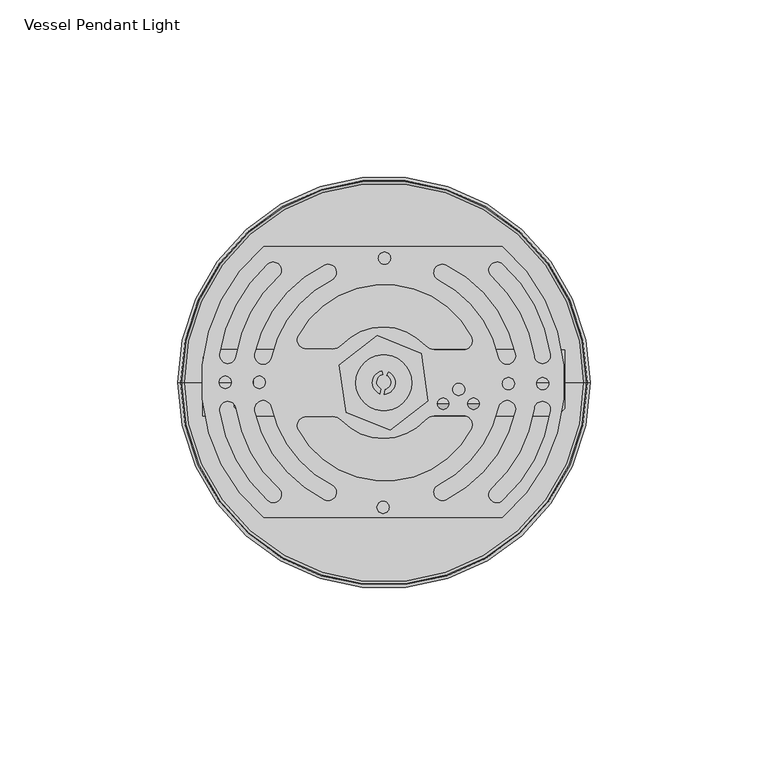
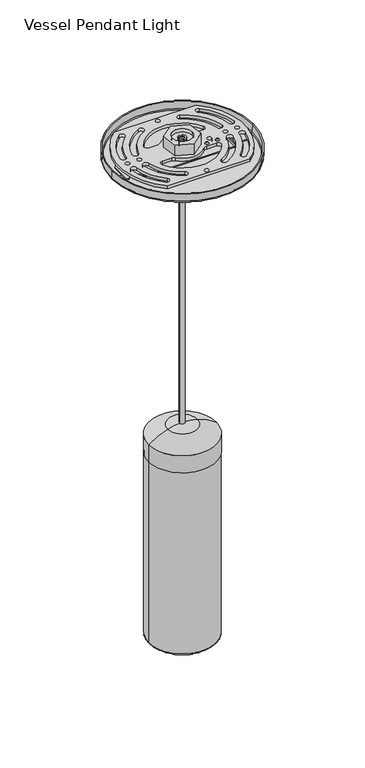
"""IFC4 building model written with IfcOpenShell, lengths in millimetres: light fixture geometry, Lighting-VSRA-Vessel-Pendant-Light-SM-3D-Humanscale : Vessel Pendant Light."""

from ifc_helpers import new_model, si_unit, point, frame, frame_2d, origin, place, context, project, spatial, polyline, circle_curve, ellipse_curve, trimmed, segment, composite_curve, outline, extrude, source, transform, mapped, element, save
from ifc_brep_helpers import plane_surface, cylinder_surface, revolved_surface, advanced_brep


def vessel_pendant_light_e44dd57b(model_context):
    return source(origin(), model_context, "Body", "SolidModel", [
        advanced_brep(
        [(-39.1099901, 11.1799568, 185.4849427), (-39.1099901, -7.5207835, 185.4849427), (-39.872494, -7.5207835, 185.4849427), (-42.4399795, -4.9250705, 185.4849427), (-42.4015408, 2.0594599, 185.4849427), (-47.2291246, 1.7713876, 185.4849427), (-47.2671441, -5.6767566, 185.4849427), (-49.0540663, -7.4210384, 185.4849427), (-51.2130284, -7.4092067, 185.4849427), (-51.1288114, 9.0891811, 185.4849427), (-49.0148398, 11.1799568, 185.4849427), (-38.5396426, 11.1799568, 184.9145951), (-38.5396426, -7.5207835, 184.9145951), (-38.0083741, 11.1799568, 183.357798), (-38.0083741, -7.5207835, 183.357798), (-36.9613236, 11.1799568, 182.9244974), (-36.9613236, -7.5207835, 182.9244974), (36.9613236, 11.1799568, 182.9244974), (36.9613236, -7.5207835, 182.9244974), (38.0083741, 11.1799568, 183.357798), (38.0083741, -7.5207835, 183.357798), (38.5396426, 11.1799568, 184.9145951), (38.5396426, -7.5207835, 184.9145951), (39.1099901, 11.1799568, 185.4849427), (39.1099901, -7.5207835, 185.4849427), (41.7117089, 8.5809356, 185.4849427), (41.6732259, 1.5883372, 185.4849427), (46.4969275, 1.5883372, 185.4849427), (46.5424994, 9.3075791, 185.4849427), (48.3307861, 11.0455507, 185.4849427), (50.4897482, 11.033719, 185.4849427), (50.4897482, -5.3405087, 185.4849427), (48.2852845, -7.5207835, 185.4849427), (38.9468398, 11.1799568, 186.4766109), (38.9468398, -7.5207835, 186.4766109), (48.2852845, -7.5207835, 186.4766109), (50.4897482, -5.3405087, 186.4766109), (50.4897482, 11.033719, 186.4766109), (48.3307861, 11.0455507, 186.4766109), (46.5424994, 9.3075791, 186.4766109), (46.4969275, 1.5883372, 186.4766109), (41.6732259, 1.5883372, 186.4766109), (41.7117089, 8.5809356, 186.4766109), (39.1409513, 11.1799568, 186.4766109), (37.7762092, 11.1799568, 185.883204), (37.7762092, -7.5207835, 185.883204), (37.5178392, 11.1799568, 184.7713957), (37.5178392, -7.5207835, 184.7713957), (36.882608, 11.1799568, 183.8960423), (36.882608, -7.5207835, 183.8960423), (-36.882608, 11.1799568, 183.8960423), (-36.882608, -7.5207835, 183.8960423), (-37.5178392, 11.1799568, 184.7713957), (-37.5178392, -7.5207835, 184.7713957), (-37.7762092, 11.1799568, 185.883204), (-37.7762092, -7.5207835, 185.883204), (-38.9468398, 11.1799568, 186.4766109), (-38.9468398, -7.5207835, 186.4766109), (-49.0148398, 11.1799568, 186.4766109), (-51.1288114, 9.0891811, 186.4766109), (-51.2130284, -7.4092067, 186.4766109), (-49.0540663, -7.4210384, 186.4766109), (-47.2671441, -5.6767566, 186.4766109), (-47.2291246, 1.7713876, 186.4766109), (-42.4015408, 2.0594599, 186.4766109), (-42.4399795, -4.9250705, 186.4766109), (-39.872494, -7.5207835, 186.4766109)],
        [
            (0, 1),
            (1, 2),
            (2, 3),
            (3, 4),
            (4, 5, circle_curve(frame((-44.8059997, 1.7590186, 185.4849427), z_axis=(0.0, 0.0, 1.0), x_axis=(1.0, 0.0, 0.0)), 2.4231565)),
            (5, 6),
            (6, 7),
            (7, 8),
            (8, 9),
            (9, 10),
            (10, 0),
            (0, 11, circle_curve(frame((-39.1099901, 11.1799568, 184.9145951), z_axis=(0.0, 1.0, 0.0), x_axis=(1.0, 0.0, 0.0)), 0.5703476)),
            (11, 12),
            (12, 1, circle_curve(frame((-39.1099901, -7.5207835, 184.9145951), z_axis=(0.0, -1.0, 0.0), x_axis=(1.0, 0.0, 0.0)), 0.5703476)),
            (11, 13, circle_curve(frame((-35.9930362, 11.1799568, 184.9145951), z_axis=(0.0, -1.0, 0.0), x_axis=(1.0, 0.0, 0.0)), 2.5466064)),
            (13, 14),
            (14, 12, circle_curve(frame((-35.9930362, -7.5207835, 184.9145951), z_axis=(0.0, 1.0, 0.0), x_axis=(1.0, 0.0, 0.0)), 2.5466064)),
            (13, 15, circle_curve(frame((-37.10707, 11.1799568, 184.0540324), z_axis=(0.0, -1.0, 0.0), x_axis=(1.0, 0.0, 0.0)), 1.1388993)),
            (15, 16),
            (16, 14, circle_curve(frame((-37.10707, -7.5207835, 184.0540324), z_axis=(0.0, 1.0, 0.0), x_axis=(1.0, 0.0, 0.0)), 1.1388993)),
            (15, 17),
            (17, 18),
            (18, 16),
            (17, 19, circle_curve(frame((37.10707, 11.1799568, 184.0540324), z_axis=(0.0, -1.0, 0.0), x_axis=(1.0, 0.0, 0.0)), 1.1388993)),
            (19, 20),
            (20, 18, circle_curve(frame((37.10707, -7.5207835, 184.0540324), z_axis=(0.0, 1.0, 0.0), x_axis=(1.0, 0.0, 0.0)), 1.1388993)),
            (19, 21, circle_curve(frame((35.9930362, 11.1799568, 184.9145951), z_axis=(0.0, -1.0, 0.0), x_axis=(1.0, 0.0, 0.0)), 2.5466064)),
            (21, 22),
            (22, 20, circle_curve(frame((35.9930362, -7.5207835, 184.9145951), z_axis=(0.0, 1.0, 0.0), x_axis=(1.0, 0.0, 0.0)), 2.5466064)),
            (21, 23, circle_curve(frame((39.1099901, 11.1799568, 184.9145951), z_axis=(0.0, 1.0, 0.0), x_axis=(1.0, 0.0, 0.0)), 0.5703476)),
            (23, 24),
            (24, 22, circle_curve(frame((39.1099901, -7.5207835, 184.9145951), z_axis=(0.0, -1.0, 0.0), x_axis=(1.0, 0.0, 0.0)), 0.5703476)),
            (23, 25),
            (25, 26),
            (26, 27, circle_curve(frame((44.0850767, 1.5883372, 185.4849427), z_axis=(0.0, 0.0, 1.0), x_axis=(1.0, 0.0, 0.0)), 2.4118508)),
            (27, 28),
            (28, 29),
            (29, 30),
            (30, 31),
            (31, 32),
            (32, 24),
            (33, 34),
            (34, 35),
            (35, 36),
            (36, 37),
            (37, 38),
            (38, 39),
            (39, 40),
            (40, 41, circle_curve(frame((44.0850767, 1.5883372, 186.4766109), z_axis=(0.0, 0.0, -1.0), x_axis=(1.0, 0.0, 0.0)), 2.4118508)),
            (41, 42),
            (42, 43),
            (43, 33),
            (33, 44, circle_curve(frame((38.9468398, 11.1799568, 185.0252394), z_axis=(0.0, -1.0, 0.0), x_axis=(1.0, 0.0, 0.0)), 1.4513716)),
            (44, 45),
            (45, 34, circle_curve(frame((38.9468398, -7.5207835, 185.0252394), z_axis=(0.0, 1.0, 0.0), x_axis=(1.0, 0.0, 0.0)), 1.4513716)),
            (44, 46, circle_curve(frame((38.9468398, 11.1799568, 185.0252394), z_axis=(0.0, -1.0, 0.0), x_axis=(1.0, 0.0, 0.0)), 1.4513716)),
            (46, 47),
            (47, 45, circle_curve(frame((38.9468398, -7.5207835, 185.0252394), z_axis=(0.0, 1.0, 0.0), x_axis=(1.0, 0.0, 0.0)), 1.4513716)),
            (46, 48, circle_curve(frame((36.7781635, 11.1799568, 184.6400019), z_axis=(0.0, 1.0, 0.0), x_axis=(1.0, 0.0, 0.0)), 0.7512552)),
            (48, 49),
            (49, 47, circle_curve(frame((36.7781635, -7.5207835, 184.6400019), z_axis=(0.0, -1.0, 0.0), x_axis=(1.0, 0.0, 0.0)), 0.7512552)),
            (48, 50),
            (50, 51),
            (51, 49),
            (50, 52, circle_curve(frame((-36.7781635, 11.1799568, 184.6400019), z_axis=(0.0, 1.0, 0.0), x_axis=(1.0, 0.0, 0.0)), 0.7512552)),
            (52, 53),
            (53, 51, circle_curve(frame((-36.7781635, -7.5207835, 184.6400019), z_axis=(0.0, -1.0, 0.0), x_axis=(1.0, 0.0, 0.0)), 0.7512552)),
            (52, 54, circle_curve(frame((-38.9468398, 11.1799568, 185.0252394), z_axis=(0.0, -1.0, 0.0), x_axis=(1.0, 0.0, 0.0)), 1.4513716)),
            (54, 55),
            (55, 53, circle_curve(frame((-38.9468398, -7.5207835, 185.0252394), z_axis=(0.0, 1.0, 0.0), x_axis=(1.0, 0.0, 0.0)), 1.4513716)),
            (54, 56, circle_curve(frame((-38.9468398, 11.1799568, 185.0252394), z_axis=(0.0, -1.0, 0.0), x_axis=(1.0, 0.0, 0.0)), 1.4513716)),
            (56, 57),
            (57, 55, circle_curve(frame((-38.9468398, -7.5207835, 185.0252394), z_axis=(0.0, 1.0, 0.0), x_axis=(1.0, 0.0, 0.0)), 1.4513716)),
            (56, 58),
            (58, 59),
            (59, 60),
            (60, 61),
            (61, 62),
            (62, 63),
            (63, 64, circle_curve(frame((-44.8059997, 1.7590186, 186.4766109), z_axis=(0.0, 0.0, -1.0), x_axis=(1.0, 0.0, 0.0)), 2.4231565)),
            (64, 65),
            (65, 66),
            (66, 57),
            (23, 43),
            (42, 25),
            (41, 26),
            (40, 27),
            (39, 28),
            (38, 29),
            (37, 30),
            (36, 31),
            (35, 32),
            (66, 2),
            (65, 3),
            (64, 4),
            (63, 5),
            (62, 6),
            (61, 7),
            (60, 8),
            (59, 9),
            (58, 10),
        ],
        [
            plane_surface(frame((-52.318084, -9.254534, 185.4849427), z_axis=(0.0, 0.0, -1.0), x_axis=(0.0, 1.0, 0.0))),
            revolved_surface(polyline([(-38.5396425, 11.1799568, 184.9145951), (-38.5396425, -7.5207835, 184.9145951)]), (-39.1099901, 13.0320851, 184.9145951), (0.0, 1.0, 0.0)),
            cylinder_surface(frame((-35.9930362, 13.0320851, 184.9145951), z_axis=(0.0, -1.0, 0.0), x_axis=(1.0, 0.0, 0.0)), 2.5466064),
            cylinder_surface(frame((-37.10707, 13.0320851, 184.0540324), z_axis=(0.0, -1.0, 0.0), x_axis=(1.0, 0.0, 0.0)), 1.1388993),
            plane_surface(frame((-36.9613236, -9.254534, 182.9244974), z_axis=(0.0, 0.0, -1.0), x_axis=(0.0, 1.0, 0.0))),
            cylinder_surface(frame((37.10707, 13.0320851, 184.0540324), z_axis=(0.0, -1.0, 0.0), x_axis=(1.0, 0.0, 0.0)), 1.1388993),
            cylinder_surface(frame((35.9930362, 13.0320851, 184.9145951), z_axis=(0.0, -1.0, 0.0), x_axis=(1.0, 0.0, 0.0)), 2.5466064),
            revolved_surface(polyline([(39.680337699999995, 11.1799568, 184.9145951), (39.680337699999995, -7.5207835, 184.9145951)]), (39.1099901, 13.0320851, 184.9145951), (0.0, 1.0, 0.0)),
            plane_surface(frame((39.1099901, -9.254534, 185.4849427), z_axis=(0.0, 0.0, -1.0), x_axis=(0.0, 1.0, 0.0))),
            plane_surface(frame((52.4290261, -9.254534, 186.4766109), z_axis=(0.0, 0.0, 1.0), x_axis=(0.0, 1.0, 0.0))),
            cylinder_surface(frame((38.9468398, 13.0320851, 185.0252394), z_axis=(0.0, -1.0, 0.0), x_axis=(1.0, 0.0, 0.0)), 1.4513716),
            revolved_surface(polyline([(37.5294187, 11.1799568, 184.6400019), (37.5294187, -7.5207835, 184.6400019)]), (36.7781635, 13.0320851, 184.6400019), (0.0, 1.0, 0.0)),
            plane_surface(frame((36.882608, -9.254534, 183.8960423), z_axis=(0.0, 0.0, 1.0), x_axis=(0.0, 1.0, 0.0))),
            revolved_surface(polyline([(-36.026908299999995, 11.1799568, 184.6400019), (-36.026908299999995, -7.5207835, 184.6400019)]), (-36.7781635, 13.0320851, 184.6400019), (0.0, 1.0, 0.0)),
            cylinder_surface(frame((-38.9468398, 13.0320851, 185.0252394), z_axis=(0.0, -1.0, 0.0), x_axis=(1.0, 0.0, 0.0)), 1.4513716),
            plane_surface(frame((-38.9468398, -9.254534, 186.4766109), z_axis=(0.0, 0.0, 1.0), x_axis=(0.0, 1.0, 0.0))),
            plane_surface(frame((39.1409513, 11.1799568, 190.1280055), z_axis=(0.71096195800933, 0.7032304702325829, 0.0), x_axis=(0.0, 0.0, -1.0))),
            plane_surface(frame((41.7117089, 8.5809356, 190.1280055), z_axis=(0.9999848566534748, -0.005503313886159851, 0.0), x_axis=(0.0, 0.0, -1.0))),
            revolved_surface(polyline([(46.4969275, 1.5883372, 186.4766109), (46.4969275, 1.5883372, 185.4849427)]), (44.0850767, 1.5883372, 178.8666859), (0.0, 0.0, 1.0)),
            plane_surface(frame((46.4969275, 1.5883372, 190.1280055), z_axis=(-0.999982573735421, 0.005903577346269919, 0.0), x_axis=(0.0, 0.0, -1.0))),
            plane_surface(frame((46.5424994, 9.3075791, 190.1280055), z_axis=(-0.6969463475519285, 0.7171232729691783, 0.0), x_axis=(0.0, 0.0, -1.0))),
            plane_surface(frame((48.3307861, 11.0455507, 190.1280055), z_axis=(0.005480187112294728, 0.999984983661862, 0.0), x_axis=(0.0, 0.0, -1.0))),
            plane_surface(frame((50.4897482, 11.033719, 190.1280055), z_axis=(1.0, 0.0, 0.0), x_axis=(0.0, 0.0, -1.0))),
            plane_surface(frame((50.4897482, -5.3405087, 190.1280055), z_axis=(0.7031952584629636, -0.7109967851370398, 0.0), x_axis=(0.0, 0.0, -1.0))),
            plane_surface(frame((48.2852845, -7.5207835, 190.1280055), z_axis=(0.0, -1.0, 0.0), x_axis=(0.0, 0.0, -1.0))),
            plane_surface(frame((-39.872494, -7.5207835, 190.1280055), z_axis=(-0.7109619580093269, -0.7032304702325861, 0.0), x_axis=(0.0, 0.0, -1.0))),
            plane_surface(frame((-42.4399795, -4.9250705, 190.1280055), z_axis=(-0.9999848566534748, 0.005503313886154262, 0.0), x_axis=(0.0, 0.0, -1.0))),
            revolved_surface(polyline([(-42.3828432, 1.7590186, 186.4766109), (-42.3828432, 1.7590186, 185.4849427)]), (-44.8059997, 1.7590186, 178.8666859), (0.0, 0.0, 1.0)),
            plane_surface(frame((-47.2291246, 1.7713876, 190.1280055), z_axis=(0.9999869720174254, -0.0051044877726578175, 0.0), x_axis=(0.0, 0.0, -1.0))),
            plane_surface(frame((-47.2671441, -5.6767566, 190.1280055), z_axis=(0.6985173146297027, -0.7155931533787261, 0.0), x_axis=(0.0, 0.0, -1.0))),
            plane_surface(frame((-49.0540663, -7.4210384, 190.1280055), z_axis=(-0.005480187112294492, -0.999984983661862, 0.0), x_axis=(0.0, 0.0, -1.0))),
            plane_surface(frame((-51.2130284, -7.4092067, 190.1280055), z_axis=(-0.9999869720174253, 0.005104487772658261, 0.0), x_axis=(0.0, 0.0, -1.0))),
            plane_surface(frame((-51.1288114, 9.0891811, 190.1280055), z_axis=(-0.7031952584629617, 0.7109967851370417, 0.0), x_axis=(0.0, 0.0, -1.0))),
            plane_surface(frame((-49.0148398, 11.1799568, 190.1280055), z_axis=(0.0, 1.0, 0.0), x_axis=(0.0, 0.0, -1.0))),
        ],
        [
            (0, [[1, 2, 3, 4, 5, 6, 7, 8, 9, 10, 11]]),
            (1, [[-1, 12, 13, 14]]),
            (2, [[-13, 15, 16, 17]]),
            (3, [[-16, 18, 19, 20]]),
            (4, [[-19, 21, 22, 23]]),
            (5, [[-22, 24, 25, 26]]),
            (6, [[-25, 27, 28, 29]]),
            (7, [[-28, 30, 31, 32]]),
            (8, [[-31, 33, 34, 35, 36, 37, 38, 39, 40, 41]]),
            (9, [[42, 43, 44, 45, 46, 47, 48, 49, 50, 51, 52]]),
            (10, [[-42, 53, 54, 55]]),
            (10, [[-54, 56, 57, 58]]),
            (11, [[-57, 59, 60, 61]]),
            (12, [[-60, 62, 63, 64]]),
            (13, [[-63, 65, 66, 67]]),
            (14, [[-66, 68, 69, 70]]),
            (14, [[-69, 71, 72, 73]]),
            (15, [[-72, 74, 75, 76, 77, 78, 79, 80, 81, 82, 83]]),
            (16, [[84, -51, 85, -33]]),
            (17, [[-85, -50, 86, -34]]),
            (18, [[-86, -49, 87, -35]]),
            (19, [[-87, -48, 88, -36]]),
            (20, [[-88, -47, 89, -37]]),
            (21, [[-89, -46, 90, -38]]),
            (22, [[-90, -45, 91, -39]]),
            (23, [[-91, -44, 92, -40]]),
            (24, [[-92, -43, -55, -58, -61, -64, -67, -70, -73, -83, 93, -2, -14, -17, -20, -23, -26, -29, -32, -41]]),
            (25, [[-93, -82, 94, -3]]),
            (26, [[-94, -81, 95, -4]]),
            (27, [[-95, -80, 96, -5]]),
            (28, [[-96, -79, 97, -6]]),
            (29, [[-97, -78, 98, -7]]),
            (30, [[-98, -77, 99, -8]]),
            (31, [[-99, -76, 100, -9]]),
            (32, [[-100, -75, 101, -10]]),
            (33, [[-84, -30, -27, -24, -21, -18, -15, -12, -11, -101, -74, -71, -68, -65, -62, -59, -56, -53, -52]]),
        ],
    ),
        advanced_brep(
        [(-27.6810642, 2.4124137, -71.3819314), (27.6810642, 2.4124137, -71.3819314), (0.0, 2.4124137, -71.3819314), (-27.6810642, 2.4124137, -56.8466331), (27.6810642, 2.4124137, -56.8466331), (-12.3411442, 2.4124137, -48.8160938), (12.3411442, 2.4124137, -48.8160938), (0.0, 2.4124137, -47.0812705)],
        [
            (0, 1, circle_curve(frame((0.0, 2.4124137, -71.3819314), z_axis=(0.0, 0.0, -1.0), x_axis=(1.0, 0.0, 0.0)), 27.6810642)),
            (1, 2),
            (2, 0),
            (1, 0, circle_curve(frame((0.0, 2.4124137, -71.3819314), z_axis=(0.0, 0.0, -1.0), x_axis=(1.0, 0.0, 0.0)), 27.6810642)),
            (3, 4, circle_curve(frame((0.0, 2.4124137, -56.8466331), z_axis=(0.0, 0.0, -1.0), x_axis=(1.0, 0.0, 0.0)), 27.6810642)),
            (4, 1),
            (0, 3),
            (4, 3, circle_curve(frame((0.0, 2.4124137, -56.8466331), z_axis=(0.0, 0.0, -1.0), x_axis=(1.0, 0.0, 0.0)), 27.6810642)),
            (5, 6, circle_curve(frame((0.0, 2.4124137, -48.8160938), z_axis=(0.0, 0.0, -1.0), x_axis=(1.0, 0.0, 0.0)), 12.3411442)),
            (6, 4, circle_curve(frame((0.1973384, 2.4124137, -90.6795789), z_axis=(0.0, 1.0, 0.0), x_axis=(1.0, 0.0, 0.0)), 43.5892579)),
            (3, 5, circle_curve(frame((-0.1973384, 2.4124137, -90.6795789), z_axis=(0.0, 1.0, 0.0), x_axis=(-1.0, 0.0, 0.0)), 43.5892579)),
            (6, 5, circle_curve(frame((0.0, 2.4124137, -48.8160938), z_axis=(0.0, 0.0, -1.0), x_axis=(1.0, 0.0, 0.0)), 12.3411442)),
            (7, 6, circle_curve(frame((0.1322486, 2.4124137, -90.9039635), z_axis=(0.0, 1.0, 0.0), x_axis=(1.0, 0.0, 0.0)), 43.8228926)),
            (5, 7, circle_curve(frame((-0.1322486, 2.4124137, -90.9039635), z_axis=(0.0, 1.0, 0.0), x_axis=(-1.0, 0.0, 0.0)), 43.8228926)),
        ],
        [
            plane_surface(frame((0.0, 2.4124137, -71.3819314), z_axis=(0.0, 0.0, -1.0), x_axis=(1.0, 0.0, 0.0))),
            cylinder_surface(frame((0.0, 2.4124137, -47.0812705), z_axis=(0.0, 0.0, 1.0), x_axis=(1.0, 0.0, 0.0)), 27.6810642),
            revolved_surface(trimmed(ellipse_curve(frame((0.1973384, 2.4124137, -90.6795789), z_axis=(0.0, -1.0, 0.0), x_axis=(1.0, 0.0, 0.0)), 43.5892579, 43.5892579), [point((27.6810642, 2.4124137, -56.8466331))], [point((12.3411442, 2.4124137, -48.8160938))], True, "CARTESIAN"), (0.0, 2.4124137, -47.0812705), (0.0, 0.0, 1.0)),
            revolved_surface(trimmed(ellipse_curve(frame((0.1322486, 2.4124137, -90.9039635), z_axis=(0.0, -1.0, 0.0), x_axis=(1.0, 0.0, 0.0)), 43.8228926, 43.8228926), [point((12.3411442, 2.4124137, -48.8160938))], [point((0.0, 2.4124137, -47.0812705))], True, "CARTESIAN"), (0.0, 2.4124137, -47.0812705), (0.0, 0.0, 1.0)),
        ],
        [
            (0, [[1, 2, 3]]),
            (0, [[4, -3, -2]]),
            (1, [[5, 6, -1, 7]]),
            (1, [[8, -7, -4, -6]]),
            (2, [[9, 10, -5, 11]]),
            (2, [[12, -11, -8, -10]]),
            (3, [[13, -9, 14]]),
            (3, [[-14, -12, -13]]),
        ],
    ),
        advanced_brep(
        [(-26.3869417, 2.4124137, -228.5438114), (26.3869417, 2.4124137, -228.5438114), (0.0, 2.4124137, -223.7263236), (-27.4330173, 2.4124137, -227.8329425), (27.4330173, 2.4124137, -227.8329425), (-27.4330173, 2.4124137, -70.3755842), (27.4330173, 2.4124137, -70.3755842), (0.0, 2.4124137, -70.7562133)],
        [
            (0, 1, circle_curve(frame((0.0, 2.4124137, -228.5438114), z_axis=(0.0, 0.0, -1.0), x_axis=(1.0, 0.0, 0.0)), 26.3869417)),
            (1, 2, circle_curve(frame((1.0912529, 2.4124137, -292.4228367), z_axis=(0.0, -1.0, 0.0), x_axis=(1.0, 0.0, 0.0)), 68.7051799)),
            (2, 0, circle_curve(frame((-1.0912529, 2.4124137, -292.4228367), z_axis=(0.0, -1.0, 0.0), x_axis=(-1.0, 0.0, 0.0)), 68.7051799)),
            (1, 0, circle_curve(frame((0.0, 2.4124137, -228.5438114), z_axis=(0.0, 0.0, -1.0), x_axis=(1.0, 0.0, 0.0)), 26.3869417)),
            (3, 4, circle_curve(frame((0.0, 2.4124137, -227.8329425), z_axis=(0.0, 0.0, -1.0), x_axis=(1.0, 0.0, 0.0)), 27.4330173)),
            (4, 1, circle_curve(frame((26.6684412, 2.4124137, -227.8329425), z_axis=(0.0, 1.0, 0.0), x_axis=(1.0, 0.0, 0.0)), 0.7645761)),
            (0, 3, circle_curve(frame((-26.6684412, 2.4124137, -227.8329425), z_axis=(0.0, 1.0, 0.0), x_axis=(-1.0, 0.0, 0.0)), 0.7645761)),
            (4, 3, circle_curve(frame((0.0, 2.4124137, -227.8329425), z_axis=(0.0, 0.0, -1.0), x_axis=(1.0, 0.0, 0.0)), 27.4330173)),
            (5, 6, circle_curve(frame((0.0, 2.4124137, -70.3755842), z_axis=(0.0, 0.0, -1.0), x_axis=(1.0, 0.0, 0.0)), 27.4330173)),
            (6, 4),
            (3, 5),
            (6, 5, circle_curve(frame((0.0, 2.4124137, -70.3755842), z_axis=(0.0, 0.0, -1.0), x_axis=(1.0, 0.0, 0.0)), 27.4330173)),
            (7, 6, circle_curve(frame((9.1295634, 2.4124137, 260.0281716), z_axis=(0.0, -1.0, 0.0), x_axis=(1.0, 0.0, 0.0)), 330.9103478)),
            (5, 7, circle_curve(frame((-9.1295634, 2.4124137, 260.0281716), z_axis=(0.0, -1.0, 0.0), x_axis=(-1.0, 0.0, 0.0)), 330.9103478)),
        ],
        [
            revolved_surface(trimmed(ellipse_curve(frame((1.0912529, 2.4124137, -292.4228367), z_axis=(0.0, 1.0, 0.0), x_axis=(1.0, 0.0, 0.0)), 68.7051799, 68.7051799), [point((0.0, 2.4124137, -223.7263236))], [point((26.3869417, 2.4124137, -228.5438114))], True, "CARTESIAN"), (0.0, 2.4124137, -167.0901713), (0.0, 0.0, 1.0)),
            revolved_surface(trimmed(ellipse_curve(frame((26.6684412, 2.4124137, -227.8329425), z_axis=(0.0, -1.0, 0.0), x_axis=(1.0, 0.0, 0.0)), 0.7645761, 0.7645761), [point((26.3869417, 2.4124137, -228.5438114))], [point((27.4330173, 2.4124137, -227.8329425))], True, "CARTESIAN"), (0.0, 2.4124137, -167.0901713), (0.0, 0.0, 1.0)),
            cylinder_surface(frame((0.0, 2.4124137, -167.0901713), z_axis=(0.0, 0.0, 1.0), x_axis=(1.0, 0.0, 0.0)), 27.4330173),
            revolved_surface(trimmed(ellipse_curve(frame((9.1295634, 2.4124137, 260.0281716), z_axis=(0.0, 1.0, 0.0), x_axis=(1.0, 0.0, 0.0)), 330.9103478, 330.9103478), [point((27.4330173, 2.4124137, -70.3755842))], [point((0.0, 2.4124137, -70.7562133))], True, "CARTESIAN"), (0.0, 2.4124137, -167.0901713), (0.0, 0.0, 1.0)),
        ],
        [
            (0, [[1, 2, 3]]),
            (0, [[4, -3, -2]]),
            (1, [[5, 6, -1, 7]]),
            (1, [[8, -7, -4, -6]]),
            (2, [[9, 10, -5, 11]]),
            (2, [[12, -11, -8, -10]]),
            (3, [[13, -9, 14]]),
            (3, [[-14, -12, -13]]),
        ],
    ),
        advanced_brep(
        [(14.708731, -4.0063304, 191.4926821), (17.9028968, -4.0063304, 191.4926821), (16.3058139, -4.0063304, 191.4926821), (16.3058139, -4.0063304, 192.5349099)],
        [
            (0, 1, circle_curve(frame((16.3058139, -4.0063304, 191.4926821), z_axis=(0.0, 0.0, -1.0), x_axis=(1.0, 0.0, 0.0)), 1.5970829)),
            (1, 2),
            (2, 0),
            (1, 0, circle_curve(frame((16.3058139, -4.0063304, 191.4926821), z_axis=(0.0, 0.0, -1.0), x_axis=(1.0, 0.0, 0.0)), 1.5970829)),
            (3, 1, circle_curve(frame((16.2134187, -4.0063304, 190.6485477), z_axis=(0.0, 1.0, 0.0), x_axis=(1.0, 0.0, 0.0)), 1.8886236)),
            (0, 3, circle_curve(frame((16.3982091, -4.0063304, 190.6485477), z_axis=(0.0, 1.0, 0.0), x_axis=(-1.0, 0.0, 0.0)), 1.8886236)),
        ],
        [
            plane_surface(frame((16.3058139, -4.0063304, 191.4926821), z_axis=(0.0, 0.0, -1.0), x_axis=(1.0, 0.0, 0.0))),
            revolved_surface(trimmed(ellipse_curve(frame((16.2134187, -4.0063304, 190.6485477), z_axis=(0.0, -1.0, 0.0), x_axis=(1.0, 0.0, 0.0)), 1.8886236, 1.8886236), [point((17.9028968, -4.0063304, 191.4926821))], [point((16.3058139, -4.0063304, 192.5349099))], True, "CARTESIAN"), (16.3058139, -4.0063304, 192.5349099), (0.0, 0.0, 1.0)),
        ],
        [
            (0, [[1, 2, 3]]),
            (0, [[4, -3, -2]]),
            (1, [[5, -1, 6]]),
            (1, [[-6, -4, -5]]),
        ],
    ),
        advanced_brep(
        [(23.2446595, -4.0063304, 191.4926821), (26.4388253, -4.0063304, 191.4926821), (24.8417424, -4.0063304, 191.4926821), (24.8417424, -4.0063304, 192.5349099)],
        [
            (0, 1, circle_curve(frame((24.8417424, -4.0063304, 191.4926821), z_axis=(0.0, 0.0, -1.0), x_axis=(1.0, 0.0, 0.0)), 1.5970829)),
            (1, 2),
            (2, 0),
            (1, 0, circle_curve(frame((24.8417424, -4.0063304, 191.4926821), z_axis=(0.0, 0.0, -1.0), x_axis=(1.0, 0.0, 0.0)), 1.5970829)),
            (3, 1, circle_curve(frame((24.7493472, -4.0063304, 190.6485477), z_axis=(0.0, 1.0, 0.0), x_axis=(1.0, 0.0, 0.0)), 1.8886236)),
            (0, 3, circle_curve(frame((24.9341376, -4.0063304, 190.6485477), z_axis=(0.0, 1.0, 0.0), x_axis=(-1.0, 0.0, 0.0)), 1.8886236)),
        ],
        [
            plane_surface(frame((24.8417424, -4.0063304, 191.4926821), z_axis=(0.0, 0.0, -1.0), x_axis=(1.0, 0.0, 0.0))),
            revolved_surface(trimmed(ellipse_curve(frame((24.7493472, -4.0063304, 190.6485477), z_axis=(0.0, -1.0, 0.0), x_axis=(1.0, 0.0, 0.0)), 1.8886236, 1.8886236), [point((26.4388253, -4.0063304, 191.4926821))], [point((24.8417424, -4.0063304, 192.5349099))], True, "CARTESIAN"), (24.8417424, -4.0063304, 192.5349099), (0.0, 0.0, 1.0)),
        ],
        [
            (0, [[1, 2, 3]]),
            (0, [[4, -3, -2]]),
            (1, [[5, -1, 6]]),
            (1, [[-6, -4, -5]]),
        ],
    ),
        extrude(outline(composite_curve([segment(polyline([(-0.3001392, -1.3697992), (0.0, 0.0)]), True, "CONTINUOUS"), segment(trimmed(circle_curve(frame_2d((-0.4381217, 2.0674375)), 2.1133501), [point((0.0, 0.0))], [point((0.5067494, 3.9577992))], True, "CARTESIAN"), True, "CONTINUOUS"), segment(polyline([(0.5067494, 3.9577992), (0.976639, 4.8978863)]), True, "CONTINUOUS"), segment(trimmed(circle_curve(frame_2d((-0.4979366, 1.9343815)), 3.3100957), [point((0.976639, 4.8978863))], [point((-0.3001392, -1.3697992))], False, "CARTESIAN"), True, "CONTINUOUS")], self_intersect=False)), frame((0.0, 0.0, 191.8036172), z_axis=(0.0, 0.0, 1.0), x_axis=(1.0, 0.0, 0.0)), (0.0, 0.0, 1.0), 7.1012294),
        extrude(outline(composite_curve([segment(trimmed(circle_curve(frame_2d((-0.1680545, 1.9055206)), 3.3958177), [point((-1.479588, -1.2268041))], [point((-0.9157404, 5.2180036))], False, "CARTESIAN"), True, "CONTINUOUS"), segment(polyline([(-0.9157404, 5.2180036), (-0.6739939, 4.1469907)]), True, "CONTINUOUS"), segment(trimmed(circle_curve(frame_2d((-0.396875, 2.0973862)), 2.0682538), [point((-0.6739939, 4.1469907))], [point((-1.1714197, 0.179639))], True, "CARTESIAN"), True, "CONTINUOUS"), segment(polyline([(-1.1714197, 0.179639), (-1.479588, -1.2268041)]), True, "CONTINUOUS")], self_intersect=False)), frame((0.0, 0.0, 191.8036172), z_axis=(0.0, 0.0, 1.0), x_axis=(1.0, 0.0, 0.0)), (0.0, 0.0, 1.0), 7.1012294),
        extrude(outline(composite_curve([segment(trimmed(circle_curve(frame_2d((-0.4008751, 1.8840693)), 7.8422713), [point((-8.2431465, 1.8840693))], [point((7.4413962, 1.8840693))], False, "CARTESIAN"), True, "CONTINUOUS"), segment(trimmed(circle_curve(frame_2d((-0.4008751, 1.8840693)), 7.8422713), [point((7.4413962, 1.8840693))], [point((-8.2431465, 1.8840693))], False, "CARTESIAN"), True, "CONTINUOUS")], self_intersect=False)), frame((0.0, 0.0, 191.8036172), z_axis=(0.0, 0.0, 1.0), x_axis=(1.0, 0.0, 0.0)), (0.0, 0.0, 1.0), 6.2256013),
        extrude(outline(polyline([(-10.966681, -6.4302387), (-12.8334483, 6.8525006), (-2.2636423, 15.1105381), (10.172931, 10.0858363), (12.0396983, -3.1969029), (1.4698923, -11.4549404), (-10.966681, -6.4302387)]), holes=[composite_curve([segment(trimmed(circle_curve(frame_2d((-0.4008751, 1.8840693)), 7.8422713), [point((-8.2431465, 1.8840693))], [point((7.4413962, 1.8840693))], True, "CARTESIAN"), True, "CONTINUOUS"), segment(trimmed(circle_curve(frame_2d((-0.4008751, 1.8840693)), 7.8422713), [point((7.4413962, 1.8840693))], [point((-8.2431465, 1.8840693))], True, "CARTESIAN"), True, "CONTINUOUS")], self_intersect=False)]), frame((0.0, 0.0, 191.8036172), z_axis=(0.0, 0.0, 1.0), x_axis=(1.0, 0.0, 0.0)), (0.0, 0.0, 1.0), 9.185856),
        extrude(outline(composite_curve([segment(trimmed(circle_curve(frame_2d((-1.4402309, 2.0596992)), 50.2237504), [point((-34.1635423, -36.0403008))], [point((-34.1635423, 40.1596992))], False, "CARTESIAN"), True, "CONTINUOUS"), segment(polyline([(-34.1635423, 40.1596992), (32.9729173, 40.1596992)]), True, "CONTINUOUS"), segment(trimmed(circle_curve(frame_2d((0.2496059, 2.0596992)), 50.2237504), [point((32.9729173, 40.1596992))], [point((32.9729173, -36.0403008))], False, "CARTESIAN"), True, "CONTINUOUS"), segment(polyline([(32.9729173, -36.0403008), (-34.1635423, -36.0403008)]), True, "CONTINUOUS")], self_intersect=False), holes=[composite_curve([segment(trimmed(circle_curve(frame_2d((-0.1908468, 36.8970059)), 1.7055089), [point((-1.8963558, 36.8970059))], [point((1.5146621, 36.8970059))], True, "CARTESIAN"), True, "CONTINUOUS"), segment(trimmed(circle_curve(frame_2d((-0.1908468, 36.8970059)), 1.7055089), [point((1.5146621, 36.8970059))], [point((-1.8963558, 36.8970059))], True, "CARTESIAN"), True, "CONTINUOUS")], self_intersect=False), composite_curve([segment(trimmed(circle_curve(frame_2d((-0.5877218, -33.1266934)), 1.7055089), [point((-2.2932308, -33.1266934))], [point((1.1177871, -33.1266934))], True, "CARTESIAN"), True, "CONTINUOUS"), segment(trimmed(circle_curve(frame_2d((-0.5877218, -33.1266934)), 1.7055089), [point((1.1177871, -33.1266934))], [point((-2.2932308, -33.1266934))], True, "CARTESIAN"), True, "CONTINUOUS")], self_intersect=False), composite_curve([segment(trimmed(circle_curve(frame_2d((-35.3408632, 2.023323)), 1.7055089), [point((-37.0463722, 2.023323))], [point((-33.6353543, 2.023323))], True, "CARTESIAN"), True, "CONTINUOUS"), segment(trimmed(circle_curve(frame_2d((-35.3408632, 2.023323)), 1.7055089), [point((-33.6353543, 2.023323))], [point((-37.0463722, 2.023323))], True, "CARTESIAN"), True, "CONTINUOUS")], self_intersect=False), composite_curve([segment(trimmed(circle_curve(frame_2d((-44.9312004, 2.023323)), 1.7055089), [point((-46.6367093, 2.023323))], [point((-43.2256914, 2.023323))], True, "CARTESIAN"), True, "CONTINUOUS"), segment(trimmed(circle_curve(frame_2d((-44.9312004, 2.023323)), 1.7055089), [point((-43.2256914, 2.023323))], [point((-46.6367093, 2.023323))], True, "CARTESIAN"), True, "CONTINUOUS")], self_intersect=False), composite_curve([segment(trimmed(circle_curve(frame_2d((34.646332, 1.626448)), 1.7055089), [point((32.940823, 1.626448))], [point((36.3518409, 1.626448))], True, "CARTESIAN"), True, "CONTINUOUS"), segment(trimmed(circle_curve(frame_2d((34.646332, 1.626448)), 1.7055089), [point((36.3518409, 1.626448))], [point((32.940823, 1.626448))], True, "CARTESIAN"), True, "CONTINUOUS")], self_intersect=False), composite_curve([segment(trimmed(circle_curve(frame_2d((44.2366691, 1.626448)), 1.7055089), [point((42.5311602, 1.626448))], [point((45.942178, 1.626448))], True, "CARTESIAN"), True, "CONTINUOUS"), segment(trimmed(circle_curve(frame_2d((44.2366691, 1.626448)), 1.7055089), [point((45.942178, 1.626448))], [point((42.5311602, 1.626448))], True, "CARTESIAN"), True, "CONTINUOUS")], self_intersect=False), composite_curve([segment(trimmed(circle_curve(frame_2d((-4.4240376, 3.8086472)), 42.4190241), [point((-32.9436407, 35.2093773))], [point((-46.4043823, 9.8934043))], True, "CARTESIAN"), True, "CONTINUOUS"), segment(trimmed(circle_curve(frame_2d((-44.1949006, 9.5731554)), 2.23257), [point((-46.4043823, 9.8934043))], [point((-41.97223, 9.3631459))], True, "CARTESIAN"), True, "CONTINUOUS"), segment(trimmed(circle_curve(frame_2d((-5.0193501, 4.0070847)), 37.3390241), [point((-41.97223, 9.3631459))], [point((-29.9200136, 31.8308099))], False, "CARTESIAN"), True, "CONTINUOUS"), segment(trimmed(circle_curve(frame_2d((-31.4194308, 33.5311877)), 2.2670546), [point((-29.9200136, 31.8308099))], [point((-32.9436407, 35.2093773))], True, "CARTESIAN"), True, "CONTINUOUS")], self_intersect=False), composite_curve([segment(trimmed(circle_curve(frame_2d((31.4194308, 33.5311877)), 2.2670546), [point((32.9436407, 35.2093773))], [point((29.9200136, 31.8308099))], True, "CARTESIAN"), True, "CONTINUOUS"), segment(trimmed(circle_curve(frame_2d((5.0193501, 4.0070847)), 37.3390241), [point((29.9200136, 31.8308099))], [point((41.97223, 9.3631459))], False, "CARTESIAN"), True, "CONTINUOUS"), segment(trimmed(circle_curve(frame_2d((44.1949006, 9.5731554)), 2.23257), [point((41.97223, 9.3631459))], [point((46.4043823, 9.8934043))], True, "CARTESIAN"), True, "CONTINUOUS"), segment(trimmed(circle_curve(frame_2d((4.4240376, 3.8086472)), 42.4190241), [point((46.4043823, 9.8934043))], [point((32.9436407, 35.2093773))], True, "CARTESIAN"), True, "CONTINUOUS")], self_intersect=False), composite_curve([segment(trimmed(circle_curve(frame_2d((-1.1909794, 2.4445899)), 36.1751144), [point((-17.0322278, 34.9667938))], [point((-36.5794797, 9.9474524))], True, "CARTESIAN"), True, "CONTINUOUS"), segment(trimmed(circle_curve(frame_2d((-34.275362, 9.4589469)), 2.3553335), [point((-36.5794797, 9.9474524))], [point((-31.9717148, 8.9682279))], True, "CARTESIAN"), True, "CONTINUOUS"), segment(trimmed(circle_curve(frame_2d((-0.471175, 2.0252201)), 32.2566174), [point((-31.9717148, 8.9682279))], [point((-15.0082558, 30.8204045))], False, "CARTESIAN"), True, "CONTINUOUS"), segment(trimmed(circle_curve(frame_2d((-16.0219813, 32.89275)), 2.3070014), [point((-15.0082558, 30.8204045))], [point((-17.0322278, 34.9667938))], True, "CARTESIAN"), True, "CONTINUOUS")], self_intersect=False), composite_curve([segment(trimmed(circle_curve(frame_2d((16.0219813, 32.89275)), 2.3070014), [point((17.0322278, 34.9667938))], [point((15.0082558, 30.8204045))], True, "CARTESIAN"), True, "CONTINUOUS"), segment(trimmed(circle_curve(frame_2d((0.471175, 2.0252201)), 32.2566174), [point((15.0082558, 30.8204045))], [point((31.9717148, 8.9682279))], False, "CARTESIAN"), True, "CONTINUOUS"), segment(trimmed(circle_curve(frame_2d((34.275362, 9.4589469)), 2.3553335), [point((31.9717148, 8.9682279))], [point((36.5794797, 9.9474524))], True, "CARTESIAN"), True, "CONTINUOUS"), segment(trimmed(circle_curve(frame_2d((1.1909794, 2.4445899)), 36.1751144), [point((36.5794797, 9.9474524))], [point((17.0322278, 34.9667938))], True, "CARTESIAN"), True, "CONTINUOUS")], self_intersect=False), composite_curve([segment(trimmed(circle_curve(frame_2d((-31.4194308, -29.5624377)), 2.2670546), [point((-32.9436407, -31.2406273))], [point((-29.9200136, -27.8620599))], True, "CARTESIAN"), True, "CONTINUOUS"), segment(trimmed(circle_curve(frame_2d((-5.0193501, -0.0383347)), 37.3390241), [point((-29.9200136, -27.8620599))], [point((-41.97223, -5.3943959))], False, "CARTESIAN"), True, "CONTINUOUS"), segment(trimmed(circle_curve(frame_2d((-44.1949006, -5.6044054)), 2.23257), [point((-41.97223, -5.3943959))], [point((-46.4043823, -5.9246543))], True, "CARTESIAN"), True, "CONTINUOUS"), segment(trimmed(circle_curve(frame_2d((-4.4240376, 0.1601028)), 42.4190241), [point((-46.4043823, -5.9246543))], [point((-32.9436407, -31.2406273))], True, "CARTESIAN"), True, "CONTINUOUS")], self_intersect=False), composite_curve([segment(trimmed(circle_curve(frame_2d((4.4240376, 0.1601028)), 42.4190241), [point((32.9436407, -31.2406273))], [point((46.4043823, -5.9246543))], True, "CARTESIAN"), True, "CONTINUOUS"), segment(trimmed(circle_curve(frame_2d((44.1949006, -5.6044054)), 2.23257), [point((46.4043823, -5.9246543))], [point((41.97223, -5.3943959))], True, "CARTESIAN"), True, "CONTINUOUS"), segment(trimmed(circle_curve(frame_2d((5.0193501, -0.0383347)), 37.3390241), [point((41.97223, -5.3943959))], [point((29.9200136, -27.8620599))], False, "CARTESIAN"), True, "CONTINUOUS"), segment(trimmed(circle_curve(frame_2d((31.4194308, -29.5624377)), 2.2670546), [point((29.9200136, -27.8620599))], [point((32.9436407, -31.2406273))], True, "CARTESIAN"), True, "CONTINUOUS")], self_intersect=False), composite_curve([segment(trimmed(circle_curve(frame_2d((-16.0219813, -28.924)), 2.3070014), [point((-17.0322278, -30.9980438))], [point((-15.0082558, -26.8516545))], True, "CARTESIAN"), True, "CONTINUOUS"), segment(trimmed(circle_curve(frame_2d((-0.471175, 1.9435299)), 32.2566174), [point((-15.0082558, -26.8516545))], [point((-31.9717148, -4.9994779))], False, "CARTESIAN"), True, "CONTINUOUS"), segment(trimmed(circle_curve(frame_2d((-34.275362, -5.4901969)), 2.3553335), [point((-31.9717148, -4.9994779))], [point((-36.5794797, -5.9787024))], True, "CARTESIAN"), True, "CONTINUOUS"), segment(trimmed(circle_curve(frame_2d((-1.1909794, 1.5241601)), 36.1751144), [point((-36.5794797, -5.9787024))], [point((-17.0322278, -30.9980438))], True, "CARTESIAN"), True, "CONTINUOUS")], self_intersect=False), composite_curve([segment(trimmed(circle_curve(frame_2d((1.1909794, 1.5241601)), 36.1751144), [point((17.0322278, -30.9980438))], [point((36.5794797, -5.9787024))], True, "CARTESIAN"), True, "CONTINUOUS"), segment(trimmed(circle_curve(frame_2d((34.275362, -5.4901969)), 2.3553335), [point((36.5794797, -5.9787024))], [point((31.9717148, -4.9994779))], True, "CARTESIAN"), True, "CONTINUOUS"), segment(trimmed(circle_curve(frame_2d((0.471175, 1.9435299)), 32.2566174), [point((31.9717148, -4.9994779))], [point((15.0082558, -26.8516545))], False, "CARTESIAN"), True, "CONTINUOUS"), segment(trimmed(circle_curve(frame_2d((16.0219813, -28.924)), 2.3070014), [point((15.0082558, -26.8516545))], [point((17.0322278, -30.9980438))], True, "CARTESIAN"), True, "CONTINUOUS")], self_intersect=False), composite_curve([segment(polyline([(-22.1343843, 11.4448383), (-14.8803824, 11.4050845)]), True, "CONTINUOUS"), segment(trimmed(circle_curve(frame_2d((-14.8617741, 14.8005945)), 3.395561), [point((-14.8803824, 11.4050845))], [point((-12.3883767, 12.4741938))], True, "CARTESIAN"), True, "CONTINUOUS"), segment(trimmed(circle_curve(frame_2d((-0.5681289, 1.3564359)), 16.227224), [point((-12.3883767, 12.4741938))], [point((11.3961392, 12.3190582))], False, "CARTESIAN"), True, "CONTINUOUS"), segment(trimmed(circle_curve(frame_2d((13.8306908, 14.5497896)), 3.302), [point((11.3961392, 12.3190582))], [point((13.8125952, 11.2478392))], True, "CARTESIAN"), True, "CONTINUOUS"), segment(polyline([(13.8125952, 11.2478392), (21.9499076, 11.2032445)]), True, "CONTINUOUS"), segment(trimmed(circle_curve(frame_2d((21.9638273, 13.7432064)), 2.54), [point((21.9499076, 11.2032445))], [point((24.2023547, 14.9434544))], True, "CARTESIAN"), True, "CONTINUOUS"), segment(trimmed(circle_curve(frame_2d((-0.1439421, 1.8895179)), 27.625123), [point((24.2023547, 14.9434544))], [point((-24.3457026, 15.2095108))], True, "CARTESIAN"), True, "CONTINUOUS"), segment(trimmed(circle_curve(frame_2d((-22.1204646, 13.9848002)), 2.54), [point((-24.3457026, 15.2095108))], [point((-22.1343843, 11.4448383))], True, "CARTESIAN"), True, "CONTINUOUS")], self_intersect=False), composite_curve([segment(trimmed(circle_curve(frame_2d((-22.1204646, -10.2144877)), 2.54), [point((-22.1343843, -7.6745258))], [point((-24.3457026, -11.4391983))], True, "CARTESIAN"), True, "CONTINUOUS"), segment(trimmed(circle_curve(frame_2d((-0.1439421, 1.8807946)), 27.625123), [point((-24.3457026, -11.4391983))], [point((24.2023547, -11.1731419))], True, "CARTESIAN"), True, "CONTINUOUS"), segment(trimmed(circle_curve(frame_2d((21.9638273, -9.9728939)), 2.54), [point((24.2023547, -11.1731419))], [point((21.9499076, -7.432932))], True, "CARTESIAN"), True, "CONTINUOUS"), segment(polyline([(21.9499076, -7.432932), (13.8125952, -7.4775267)]), True, "CONTINUOUS"), segment(trimmed(circle_curve(frame_2d((13.8306908, -10.7794771)), 3.302), [point((13.8125952, -7.4775267))], [point((11.3961392, -8.5487457))], True, "CARTESIAN"), True, "CONTINUOUS"), segment(trimmed(circle_curve(frame_2d((-0.5681289, 2.4138766)), 16.227224), [point((11.3961392, -8.5487457))], [point((-12.3883767, -8.7038813))], False, "CARTESIAN"), True, "CONTINUOUS"), segment(trimmed(circle_curve(frame_2d((-14.8617741, -11.030282)), 3.395561), [point((-12.3883767, -8.7038813))], [point((-14.8803824, -7.634772))], True, "CARTESIAN"), True, "CONTINUOUS"), segment(polyline([(-14.8803824, -7.634772), (-22.1343843, -7.6745258)]), True, "CONTINUOUS")], self_intersect=False), composite_curve([segment(trimmed(circle_curve(frame_2d((20.6382365, 9.56e-05)), 1.7055089), [point((18.9327275, 9.56e-05))], [point((22.3437454, 9.56e-05))], True, "CARTESIAN"), True, "CONTINUOUS"), segment(trimmed(circle_curve(frame_2d((20.6382365, 9.56e-05)), 1.7055089), [point((22.3437454, 9.56e-05))], [point((18.9327275, 9.56e-05))], True, "CARTESIAN"), True, "CONTINUOUS")], self_intersect=False)]), frame((0.0, 0.0, 189.4088536), z_axis=(0.0, 0.0, 1.0), x_axis=(1.0, 0.0, 0.0)), (0.0, 0.0, 1.0), 2.3947636),
        advanced_brep(
        [(-56.5624349, 1.9241104, 182.4949014), (55.917513, 1.9241104, 182.4949014), (-0.3224609, 1.9241104, 181.7381204), (-58.0038045, 1.9241104, 183.9370964), (57.3588826, 1.9241104, 183.9370964), (-58.2197642, 1.9241104, 190.1213726), (57.5748423, 1.9241104, 190.1213726), (-57.4046129, 1.9241104, 190.2316851), (56.7596911, 1.9241104, 190.2316851), (-57.1927197, 1.9241104, 184.1638576), (56.5477979, 1.9241104, 184.1638576), (-56.4858565, 1.9241104, 183.4565896), (55.8409347, 1.9241104, 183.4565896), (-0.3224609, 1.9241104, 182.6998923)],
        [
            (0, 1, circle_curve(frame((-0.3224609, 1.9241104, 182.4949014), z_axis=(0.0, 0.0, -1.0), x_axis=(1.0, 0.0, 0.0)), 56.2399739)),
            (1, 2, circle_curve(frame((10.6191574, 1.9241104, 1458.7223649), z_axis=(0.0, 1.0, 0.0), x_axis=(1.0, 0.0, 0.0)), 1277.0311193)),
            (2, 0, circle_curve(frame((-11.2640793, 1.9241104, 1458.7223649), z_axis=(0.0, 1.0, 0.0), x_axis=(-1.0, 0.0, 0.0)), 1277.0311193)),
            (1, 0, circle_curve(frame((-0.3224609, 1.9241104, 182.4949014), z_axis=(0.0, 0.0, -1.0), x_axis=(1.0, 0.0, 0.0)), 56.2399739)),
            (3, 4, circle_curve(frame((-0.3224609, 1.9241104, 183.9370964), z_axis=(0.0, 0.0, -1.0), x_axis=(1.0, 0.0, 0.0)), 57.6813436)),
            (4, 1, circle_curve(frame((55.8644715, 1.9241104, 183.9892824), z_axis=(0.0, 1.0, 0.0), x_axis=(1.0, 0.0, 0.0)), 1.495322)),
            (0, 3, circle_curve(frame((-56.5093934, 1.9241104, 183.9892824), z_axis=(0.0, 1.0, 0.0), x_axis=(-1.0, 0.0, 0.0)), 1.495322)),
            (4, 3, circle_curve(frame((-0.3224609, 1.9241104, 183.9370964), z_axis=(0.0, 0.0, -1.0), x_axis=(1.0, 0.0, 0.0)), 57.6813436)),
            (5, 6, circle_curve(frame((-0.3224609, 1.9241104, 190.1213726), z_axis=(0.0, 0.0, -1.0), x_axis=(1.0, 0.0, 0.0)), 57.8973032)),
            (6, 4),
            (3, 5),
            (6, 5, circle_curve(frame((-0.3224609, 1.9241104, 190.1213726), z_axis=(0.0, 0.0, -1.0), x_axis=(1.0, 0.0, 0.0)), 57.8973032)),
            (7, 8, circle_curve(frame((-0.3224609, 1.9241104, 190.2316851), z_axis=(0.0, 0.0, -1.0), x_axis=(1.0, 0.0, 0.0)), 57.082152)),
            (8, 6, circle_curve(frame((57.006294, 1.9241104, 188.9870258), z_axis=(0.0, 1.0, 0.0), x_axis=(1.0, 0.0, 0.0)), 1.2688537)),
            (5, 7, circle_curve(frame((-57.6512159, 1.9241104, 188.9870258), z_axis=(0.0, 1.0, 0.0), x_axis=(-1.0, 0.0, 0.0)), 1.2688537)),
            (8, 7, circle_curve(frame((-0.3224609, 1.9241104, 190.2316851), z_axis=(0.0, 0.0, -1.0), x_axis=(1.0, 0.0, 0.0)), 57.082152)),
            (9, 10, circle_curve(frame((-0.3224609, 1.9241104, 184.1638576), z_axis=(0.0, 0.0, -1.0), x_axis=(1.0, 0.0, 0.0)), 56.8702588)),
            (10, 8),
            (7, 9),
            (10, 9, circle_curve(frame((-0.3224609, 1.9241104, 184.1638576), z_axis=(0.0, 0.0, -1.0), x_axis=(1.0, 0.0, 0.0)), 56.8702588)),
            (11, 12, circle_curve(frame((-0.3224609, 1.9241104, 183.4565896), z_axis=(0.0, 0.0, -1.0), x_axis=(1.0, 0.0, 0.0)), 56.1633956)),
            (12, 10, circle_curve(frame((55.8149226, 1.9241104, 184.1894501), z_axis=(0.0, -1.0, 0.0), x_axis=(1.0, 0.0, 0.0)), 0.733322)),
            (9, 11, circle_curve(frame((-56.4598444, 1.9241104, 184.1894501), z_axis=(0.0, -1.0, 0.0), x_axis=(-1.0, 0.0, 0.0)), 0.733322)),
            (12, 11, circle_curve(frame((-0.3224609, 1.9241104, 183.4565896), z_axis=(0.0, 0.0, -1.0), x_axis=(1.0, 0.0, 0.0)), 56.1633956)),
            (13, 12, circle_curve(frame((10.5696085, 1.9241104, 1458.9225326), z_axis=(0.0, -1.0, 0.0), x_axis=(1.0, 0.0, 0.0)), 1276.2691193)),
            (11, 13, circle_curve(frame((-11.2145303, 1.9241104, 1458.9225326), z_axis=(0.0, -1.0, 0.0), x_axis=(-1.0, 0.0, 0.0)), 1276.2691193)),
        ],
        [
            revolved_surface(trimmed(ellipse_curve(frame((10.6191574, 1.9241104, 1458.7223649), z_axis=(0.0, -1.0, 0.0), x_axis=(1.0, 0.0, 0.0)), 1277.0311193, 1277.0311193), [point((-0.3224609, 1.9241104, 181.7381204))], [point((55.917513, 1.9241104, 182.4949014))], True, "CARTESIAN"), (-0.3224609, 1.9241104, 182.6980066), (0.0, 0.0, 1.0)),
            revolved_surface(trimmed(ellipse_curve(frame((55.8644715, 1.9241104, 183.9892824), z_axis=(0.0, -1.0, 0.0), x_axis=(1.0, 0.0, 0.0)), 1.495322, 1.495322), [point((55.917513, 1.9241104, 182.4949014))], [point((57.3588826, 1.9241104, 183.9370964))], True, "CARTESIAN"), (-0.3224609, 1.9241104, 182.6980066), (0.0, 0.0, 1.0)),
            revolved_surface(polyline([(57.3588826, 1.9241104, 183.9370964), (57.5748423, 1.9241104, 190.1213726)]), (-0.3224609, 1.9241104, 182.6980066), (0.0, 0.0, 1.0)),
            revolved_surface(trimmed(ellipse_curve(frame((57.006294, 1.9241104, 188.9870258), z_axis=(0.0, -1.0, 0.0), x_axis=(1.0, 0.0, 0.0)), 1.2688537, 1.2688537), [point((57.5748423, 1.9241104, 190.1213726))], [point((56.7596911, 1.9241104, 190.2316851))], True, "CARTESIAN"), (-0.3224609, 1.9241104, 182.6980066), (0.0, 0.0, 1.0)),
            revolved_surface(polyline([(56.7596911, 1.9241104, 190.2316851), (56.5477979, 1.9241104, 184.1638576)]), (-0.3224609, 1.9241104, 182.6980066), (0.0, 0.0, 1.0)),
            revolved_surface(trimmed(ellipse_curve(frame((55.8149226, 1.9241104, 184.1894501), z_axis=(0.0, 1.0, 0.0), x_axis=(1.0, 0.0, 0.0)), 0.733322, 0.733322), [point((56.5477979, 1.9241104, 184.1638576))], [point((55.8409347, 1.9241104, 183.4565896))], True, "CARTESIAN"), (-0.3224609, 1.9241104, 182.6980066), (0.0, 0.0, 1.0)),
            revolved_surface(trimmed(ellipse_curve(frame((10.5696085, 1.9241104, 1458.9225326), z_axis=(0.0, 1.0, 0.0), x_axis=(1.0, 0.0, 0.0)), 1276.2691193, 1276.2691193), [point((55.8409347, 1.9241104, 183.4565896))], [point((-0.3224609, 1.9241104, 182.6998923))], True, "CARTESIAN"), (-0.3224609, 1.9241104, 182.6980066), (0.0, 0.0, 1.0)),
        ],
        [
            (0, [[1, 2, 3]]),
            (0, [[4, -3, -2]]),
            (1, [[5, 6, -1, 7]]),
            (1, [[8, -7, -4, -6]]),
            (2, [[9, 10, -5, 11]]),
            (2, [[12, -11, -8, -10]]),
            (3, [[13, 14, -9, 15]]),
            (3, [[16, -15, -12, -14]]),
            (4, [[17, 18, -13, 19]]),
            (4, [[20, -19, -16, -18]]),
            (5, [[21, 22, -17, 23]]),
            (5, [[24, -23, -20, -22]]),
            (6, [[25, -21, 26]]),
            (6, [[-26, -24, -25]]),
        ],
    ),
        advanced_brep(
        [(-2.4651288, 2.0973862, -49.8327596), (1.6713788, 2.0973862, -49.8327596), (-0.396875, 2.0973862, -49.8327596), (-2.4651288, 2.0973862, 185.9097121), (1.6713788, 2.0973862, 185.9097121), (-0.396875, 2.0973862, 185.9097121)],
        [
            (0, 1, circle_curve(frame((-0.396875, 2.0973862, -49.8327596), z_axis=(0.0, 0.0, -1.0), x_axis=(1.0, 0.0, 0.0)), 2.0682538)),
            (1, 2),
            (2, 0),
            (1, 0, circle_curve(frame((-0.396875, 2.0973862, -49.8327596), z_axis=(0.0, 0.0, -1.0), x_axis=(1.0, 0.0, 0.0)), 2.0682538)),
            (3, 4, circle_curve(frame((-0.396875, 2.0973862, 185.9097121), z_axis=(0.0, 0.0, -1.0), x_axis=(1.0, 0.0, 0.0)), 2.0682538)),
            (4, 1),
            (0, 3),
            (4, 3, circle_curve(frame((-0.396875, 2.0973862, 185.9097121), z_axis=(0.0, 0.0, -1.0), x_axis=(1.0, 0.0, 0.0)), 2.0682538)),
            (5, 4),
            (3, 5),
        ],
        [
            plane_surface(frame((-0.396875, 2.0973862, -49.8327596), z_axis=(0.0, 0.0, -1.0), x_axis=(1.0, 0.0, 0.0))),
            cylinder_surface(frame((-0.396875, 2.0973862, 302.0075407), z_axis=(0.0, 0.0, 1.0), x_axis=(1.0, 0.0, 0.0)), 2.0682538),
            plane_surface(frame((-0.396875, 2.0973862, 185.9097121), z_axis=(0.0, 0.0, 1.0), x_axis=(1.0, 0.0, 0.0))),
        ],
        [
            (0, [[1, 2, 3]]),
            (0, [[4, -3, -2]]),
            (1, [[5, 6, -1, 7]]),
            (1, [[8, -7, -4, -6]]),
            (2, [[9, -5, 10]]),
            (2, [[-10, -8, -9]]),
        ],
    ),
    ])


if __name__ == "__main__":
    model = new_model("IFC4")
    model_context = context("Model", 3, world=origin())
    ifc_project = project(units=[si_unit("LENGTHUNIT", "METRE", prefix="MILLI")], contexts=[model_context])
    site = spatial("IfcSite", under=ifc_project)
    building = spatial("IfcBuilding", under=site)
    placement = place(None, origin())
    vessel_pendant_light_shape = vessel_pendant_light_e44dd57b(model_context)
    element("IfcLightFixture", 1, ObjectType="Lighting-VSRA-Vessel-Pendant-Light-SM-3D-Humanscale : Vessel Pendant Light", at=placement, inside=building, context=model_context, shape_type="MappedRepresentation", body=[
        mapped(vessel_pendant_light_shape, transform((0.0, 0.0, 0.0), x_axis=(1.0, 0.0, 0.0), y_axis=(0.0, 1.0, 0.0), z_axis=(0.0, 0.0, 1.0))),
    ])
    save(model, "model.ifc")
